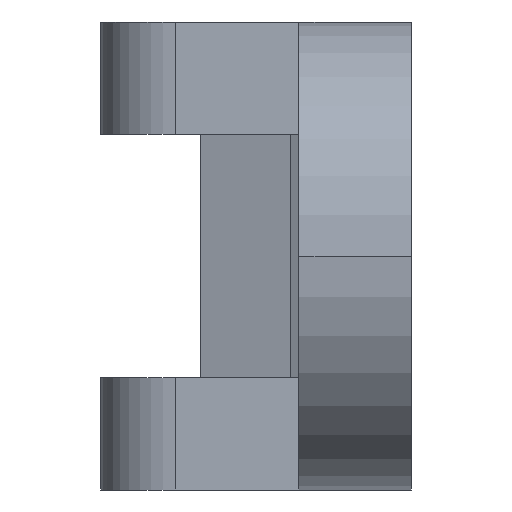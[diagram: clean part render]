
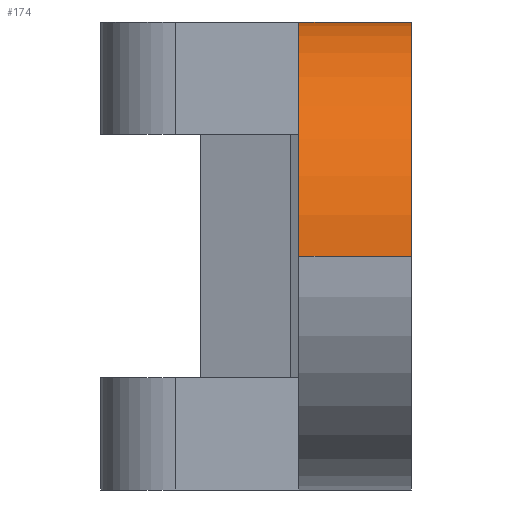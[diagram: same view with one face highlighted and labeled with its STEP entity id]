
A CAD part, left-side view. The second image highlights one B-rep face of the part: STEP entity #174.
In plain terms, the highlighted cylindrical face has radius 6.35 mm (diameter 12.7 mm), a partial arc.
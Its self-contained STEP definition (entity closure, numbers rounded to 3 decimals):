
#7 = CIRCLE ( 'NONE', #1153, 6.35 ) ;
#46 = DIRECTION ( 'NONE',  ( 0., -1., 0. ) ) ;
#55 = EDGE_CURVE ( 'NONE', #720, #398, #739, .T. ) ;
#67 = DIRECTION ( 'NONE',  ( 0., 0., 1. ) ) ;
#174 = ADVANCED_FACE ( 'NONE', ( #1277 ), #407, .T. ) ;
#182 = ORIENTED_EDGE ( 'NONE', *, *, #55, .F. ) ;
#189 = AXIS2_PLACEMENT_3D ( 'NONE', #597, #196, #989 ) ;
#196 = DIRECTION ( 'NONE',  ( 0., 1., 0. ) ) ;
#199 = ORIENTED_EDGE ( 'NONE', *, *, #677, .F. ) ;
#210 = VERTEX_POINT ( 'NONE', #279 ) ;
#226 = CARTESIAN_POINT ( 'NONE',  ( -21.031, 3.048, 0. ) ) ;
#246 = EDGE_CURVE ( 'NONE', #968, #720, #617, .T. ) ;
#263 = CARTESIAN_POINT ( 'NONE',  ( -14.681, 3.048, 0. ) ) ;
#275 = CARTESIAN_POINT ( 'NONE',  ( -14.681, 3.048, 6.35 ) ) ;
#279 = CARTESIAN_POINT ( 'NONE',  ( -21.031, 3.048, 0. ) ) ;
#362 = EDGE_CURVE ( 'NONE', #210, #968, #7, .T. ) ;
#363 = DIRECTION ( 'NONE',  ( 0., -1., 0. ) ) ;
#398 = VERTEX_POINT ( 'NONE', #767 ) ;
#407 = CYLINDRICAL_SURFACE ( 'NONE', #189, 6.35 ) ;
#427 = ORIENTED_EDGE ( 'NONE', *, *, #362, .F. ) ;
#446 = CARTESIAN_POINT ( 'NONE',  ( -14.681, 0., 0. ) ) ;
#470 = VECTOR ( 'NONE', #46, 1000. ) ;
#506 = CARTESIAN_POINT ( 'NONE',  ( -14.681, 0., 6.35 ) ) ;
#563 = DIRECTION ( 'NONE',  ( 1., 0., 0. ) ) ;
#597 = CARTESIAN_POINT ( 'NONE',  ( -14.681, 39.125, 0. ) ) ;
#617 = LINE ( 'NONE', #995, #470 ) ;
#677 = EDGE_CURVE ( 'NONE', #398, #210, #911, .T. ) ;
#720 = VERTEX_POINT ( 'NONE', #506 ) ;
#739 = CIRCLE ( 'NONE', #759, 6.35 ) ;
#759 = AXIS2_PLACEMENT_3D ( 'NONE', #446, #363, #67 ) ;
#767 = CARTESIAN_POINT ( 'NONE',  ( -21.031, 0., 0. ) ) ;
#788 = ORIENTED_EDGE ( 'NONE', *, *, #246, .F. ) ;
#835 = EDGE_LOOP ( 'NONE', ( #788, #427, #199, #182 ) ) ;
#842 = DIRECTION ( 'NONE',  ( 0., 1., 0. ) ) ;
#911 = LINE ( 'NONE', #226, #1114 ) ;
#968 = VERTEX_POINT ( 'NONE', #275 ) ;
#989 = DIRECTION ( 'NONE',  ( 0., 0., 1. ) ) ;
#995 = CARTESIAN_POINT ( 'NONE',  ( -14.681, 0., 6.35 ) ) ;
#1092 = DIRECTION ( 'NONE',  ( 0., 1., 0. ) ) ;
#1114 = VECTOR ( 'NONE', #1092, 1000. ) ;
#1153 = AXIS2_PLACEMENT_3D ( 'NONE', #263, #842, #563 ) ;
#1277 = FACE_OUTER_BOUND ( 'NONE', #835, .T. ) ;
